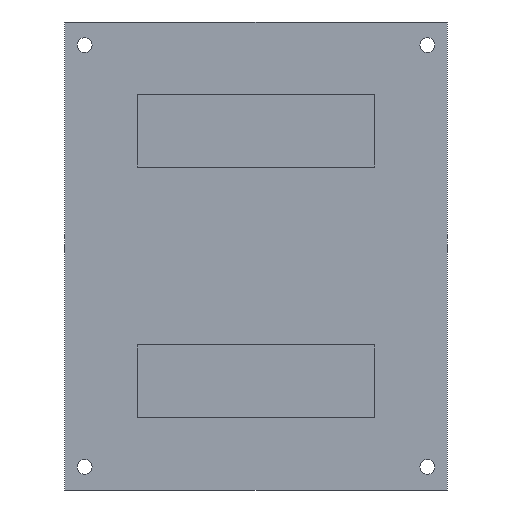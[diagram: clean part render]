
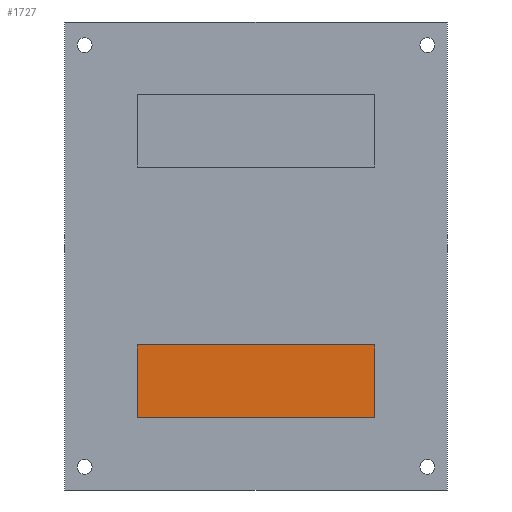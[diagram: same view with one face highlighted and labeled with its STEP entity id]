
A CAD part, front view. The second image highlights one B-rep face of the part: STEP entity #1727.
In plain terms, the highlighted planar face has unit normal (0, -1, 0).
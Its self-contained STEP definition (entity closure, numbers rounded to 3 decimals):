
#296 = PLANE('',#297);
#297 = AXIS2_PLACEMENT_3D('',#298,#299,#300);
#298 = CARTESIAN_POINT('',(105.,-13.,66.));
#299 = DIRECTION('',(0.,0.,1.));
#300 = DIRECTION('',(1.,0.,0.));
#324 = PLANE('',#325);
#325 = AXIS2_PLACEMENT_3D('',#326,#327,#328);
#326 = CARTESIAN_POINT('',(105.,-13.,44.));
#327 = DIRECTION('',(-1.,-0.,0.));
#328 = DIRECTION('',(0.,0.,-1.));
#352 = PLANE('',#353);
#353 = AXIS2_PLACEMENT_3D('',#354,#355,#356);
#354 = CARTESIAN_POINT('',(105.,-13.,44.));
#355 = DIRECTION('',(0.,0.,1.));
#356 = DIRECTION('',(1.,0.,0.));
#378 = PLANE('',#379);
#379 = AXIS2_PLACEMENT_3D('',#380,#381,#382);
#380 = CARTESIAN_POINT('',(33.,-13.,44.));
#381 = DIRECTION('',(-1.,-0.,0.));
#382 = DIRECTION('',(0.,0.,-1.));
#860 = VERTEX_POINT('',#861);
#861 = CARTESIAN_POINT('',(105.,-13.,66.));
#882 = EDGE_CURVE('',#860,#883,#885,.T.);
#883 = VERTEX_POINT('',#884);
#884 = CARTESIAN_POINT('',(33.,-13.,66.));
#885 = SURFACE_CURVE('',#886,(#890,#897),.PCURVE_S1.);
#886 = LINE('',#887,#888);
#887 = CARTESIAN_POINT('',(105.,-13.,66.));
#888 = VECTOR('',#889,1.);
#889 = DIRECTION('',(-1.,-0.,0.));
#890 = PCURVE('',#296,#891);
#891 = DEFINITIONAL_REPRESENTATION('',(#892),#896);
#892 = LINE('',#893,#894);
#893 = CARTESIAN_POINT('',(0.,-0.));
#894 = VECTOR('',#895,1.);
#895 = DIRECTION('',(-1.,0.));
#896 = ( GEOMETRIC_REPRESENTATION_CONTEXT(2) 
PARAMETRIC_REPRESENTATION_CONTEXT() REPRESENTATION_CONTEXT('2D SPACE',''
  ) );
#897 = PCURVE('',#898,#903);
#898 = PLANE('',#899);
#899 = AXIS2_PLACEMENT_3D('',#900,#901,#902);
#900 = CARTESIAN_POINT('',(105.,-13.,44.));
#901 = DIRECTION('',(-0.,1.,0.));
#902 = DIRECTION('',(0.,0.,-1.));
#903 = DEFINITIONAL_REPRESENTATION('',(#904),#908);
#904 = LINE('',#905,#906);
#905 = CARTESIAN_POINT('',(-22.,-0.));
#906 = VECTOR('',#907,1.);
#907 = DIRECTION('',(-0.,1.));
#908 = ( GEOMETRIC_REPRESENTATION_CONTEXT(2) 
PARAMETRIC_REPRESENTATION_CONTEXT() REPRESENTATION_CONTEXT('2D SPACE',''
  ) );
#936 = EDGE_CURVE('',#937,#860,#939,.T.);
#937 = VERTEX_POINT('',#938);
#938 = CARTESIAN_POINT('',(105.,-13.,44.));
#939 = SURFACE_CURVE('',#940,(#944,#951),.PCURVE_S1.);
#940 = LINE('',#941,#942);
#941 = CARTESIAN_POINT('',(105.,-13.,44.));
#942 = VECTOR('',#943,1.);
#943 = DIRECTION('',(0.,0.,1.));
#944 = PCURVE('',#324,#945);
#945 = DEFINITIONAL_REPRESENTATION('',(#946),#950);
#946 = LINE('',#947,#948);
#947 = CARTESIAN_POINT('',(-0.,-0.));
#948 = VECTOR('',#949,1.);
#949 = DIRECTION('',(-1.,-0.));
#950 = ( GEOMETRIC_REPRESENTATION_CONTEXT(2) 
PARAMETRIC_REPRESENTATION_CONTEXT() REPRESENTATION_CONTEXT('2D SPACE',''
  ) );
#951 = PCURVE('',#898,#952);
#952 = DEFINITIONAL_REPRESENTATION('',(#953),#957);
#953 = LINE('',#954,#955);
#954 = CARTESIAN_POINT('',(-0.,-0.));
#955 = VECTOR('',#956,1.);
#956 = DIRECTION('',(-1.,0.));
#957 = ( GEOMETRIC_REPRESENTATION_CONTEXT(2) 
PARAMETRIC_REPRESENTATION_CONTEXT() REPRESENTATION_CONTEXT('2D SPACE',''
  ) );
#1099 = EDGE_CURVE('',#1100,#883,#1102,.T.);
#1100 = VERTEX_POINT('',#1101);
#1101 = CARTESIAN_POINT('',(33.,-13.,44.));
#1102 = SURFACE_CURVE('',#1103,(#1107,#1114),.PCURVE_S1.);
#1103 = LINE('',#1104,#1105);
#1104 = CARTESIAN_POINT('',(33.,-13.,44.));
#1105 = VECTOR('',#1106,1.);
#1106 = DIRECTION('',(0.,0.,1.));
#1107 = PCURVE('',#378,#1108);
#1108 = DEFINITIONAL_REPRESENTATION('',(#1109),#1113);
#1109 = LINE('',#1110,#1111);
#1110 = CARTESIAN_POINT('',(-0.,-0.));
#1111 = VECTOR('',#1112,1.);
#1112 = DIRECTION('',(-1.,-0.));
#1113 = ( GEOMETRIC_REPRESENTATION_CONTEXT(2) 
PARAMETRIC_REPRESENTATION_CONTEXT() REPRESENTATION_CONTEXT('2D SPACE',''
  ) );
#1114 = PCURVE('',#898,#1115);
#1115 = DEFINITIONAL_REPRESENTATION('',(#1116),#1120);
#1116 = LINE('',#1117,#1118);
#1117 = CARTESIAN_POINT('',(-0.,72.));
#1118 = VECTOR('',#1119,1.);
#1119 = DIRECTION('',(-1.,0.));
#1120 = ( GEOMETRIC_REPRESENTATION_CONTEXT(2) 
PARAMETRIC_REPRESENTATION_CONTEXT() REPRESENTATION_CONTEXT('2D SPACE',''
  ) );
#1242 = EDGE_CURVE('',#937,#1100,#1243,.T.);
#1243 = SURFACE_CURVE('',#1244,(#1248,#1255),.PCURVE_S1.);
#1244 = LINE('',#1245,#1246);
#1245 = CARTESIAN_POINT('',(105.,-13.,44.));
#1246 = VECTOR('',#1247,1.);
#1247 = DIRECTION('',(-1.,-0.,0.));
#1248 = PCURVE('',#352,#1249);
#1249 = DEFINITIONAL_REPRESENTATION('',(#1250),#1254);
#1250 = LINE('',#1251,#1252);
#1251 = CARTESIAN_POINT('',(0.,-0.));
#1252 = VECTOR('',#1253,1.);
#1253 = DIRECTION('',(-1.,0.));
#1254 = ( GEOMETRIC_REPRESENTATION_CONTEXT(2) 
PARAMETRIC_REPRESENTATION_CONTEXT() REPRESENTATION_CONTEXT('2D SPACE',''
  ) );
#1255 = PCURVE('',#898,#1256);
#1256 = DEFINITIONAL_REPRESENTATION('',(#1257),#1261);
#1257 = LINE('',#1258,#1259);
#1258 = CARTESIAN_POINT('',(-0.,-0.));
#1259 = VECTOR('',#1260,1.);
#1260 = DIRECTION('',(-0.,1.));
#1261 = ( GEOMETRIC_REPRESENTATION_CONTEXT(2) 
PARAMETRIC_REPRESENTATION_CONTEXT() REPRESENTATION_CONTEXT('2D SPACE',''
  ) );
#1727 = ADVANCED_FACE('',(#1728),#898,.F.);
#1728 = FACE_BOUND('',#1729,.T.);
#1729 = EDGE_LOOP('',(#1730,#1731,#1732,#1733));
#1730 = ORIENTED_EDGE('',*,*,#1242,.F.);
#1731 = ORIENTED_EDGE('',*,*,#936,.T.);
#1732 = ORIENTED_EDGE('',*,*,#882,.T.);
#1733 = ORIENTED_EDGE('',*,*,#1099,.F.);
